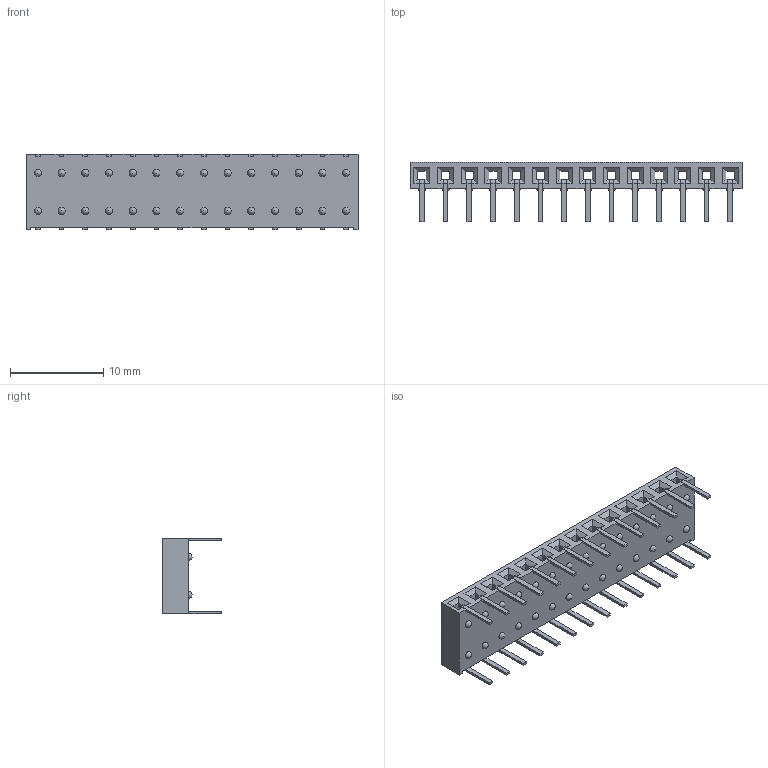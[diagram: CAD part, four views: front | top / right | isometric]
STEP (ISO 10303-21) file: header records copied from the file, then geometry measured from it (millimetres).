
FILE_DESCRIPTION(/* description */ ('STEP AP214'),/* implementation_level */ '2;1');
FILE_NAME(/* name */ 'BCS-114-L-S-HE',/* time_stamp */ '2025-03-18T21:31:21+01:00',/* author */ ('License CC BY-ND 4.0'),/* organization */ ('CADENAS'),/* preprocessor_version */ 'ST-DEVELOPER v19.3',/* originating_system */ 'PARTsolutions',/* authorisation */ ' ');
FILE_SCHEMA (('AUTOMOTIVE_DESIGN {1 0 10303 214 3 1 1}'));
Length unit declared in the file: inch
Products named in the file (4): BCS-114-L-S-HE; BCS-114-S-HE_socket; C-95-01-14-L-S-HE; C-95-01-14-L-S-HE2
Assembly tree (3 placements, depth 2):
  BCS-114-L-S-HE
    BCS-114-S-HE_socket
    C-95-01-14-L-S-HE
    C-95-01-14-L-S-HE2
Bounding box: 35.56 x 6.35 x 8.13 mm (x, y, z)
Volume: 732.5 mm3; surface area: 1664.7 mm2
Topology: 2 solids, 2 shells, 456 faces, 1370 edges, 905 vertices
Faces by surface type: plane 372, cylinder 56, sphere 28
Entity records: 14683 total; most frequent: CARTESIAN_POINT 2595, ORIENTED_EDGE 2572, DIRECTION 2346, EDGE_CURVE 1286, LINE 1146, VECTOR 1146, VERTEX_POINT 848, AXIS2_PLACEMENT_3D 600
